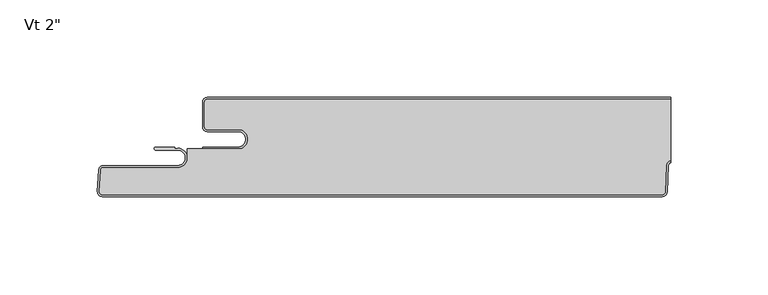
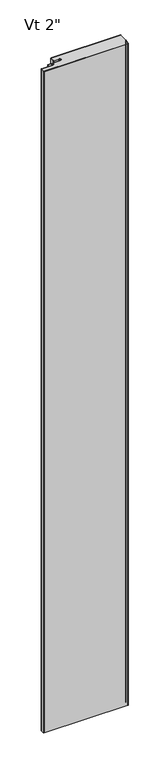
"""IFC4 building model written with IfcOpenShell, lengths in millimetres: plate geometry."""

from ifc_helpers import new_model, si_unit, point, frame_2d, origin, origin_with_axes, place, context, project, spatial, polyline, circle_curve, trimmed, segment, composite_curve, outline, extrude, source, transform, mapped, element, save


def plate_6d69c0c8(model_context):
    return source(origin(), model_context, "Body", "SweptSolid", [
        extrude(outline(composite_curve([segment(polyline([(-117.2187498, -1.0), (120.4062498, -1.0), (120.4062498, -32.391556)]), True, "CONTINUOUS"), segment(trimmed(circle_curve(frame_2d((120.9323848, -34.925)), 2.5875), [point((120.4062498, -32.391556))], [point((118.3484309, -34.7895807))], True, "CARTESIAN"), True, "CONTINUOUS"), segment(polyline([(118.3484309, -34.7895807), (117.6303679, -48.491039)]), True, "CONTINUOUS"), segment(trimmed(circle_curve(frame_2d((116.2510108, -48.41875)), 1.38125), [point((117.6303679, -48.491039))], [point((116.2510108, -49.8))], False, "CARTESIAN"), True, "CONTINUOUS"), segment(polyline([(116.2510108, -49.8), (-171.0656859, -49.8)]), True, "CONTINUOUS"), segment(trimmed(circle_curve(frame_2d((-171.0656859, -48.41875)), 1.38125), [point((-171.0656859, -49.8))], [point((-172.445043, -48.346461))], False, "CARTESIAN"), True, "CONTINUOUS"), segment(polyline([(-172.445043, -48.346461), (-171.8626615, -37.233961)]), True, "CONTINUOUS"), segment(trimmed(circle_curve(frame_2d((-170.4833045, -37.30625)), 1.38125), [point((-171.8626615, -37.233961))], [point((-170.4833045, -35.925))], False, "CARTESIAN"), True, "CONTINUOUS"), segment(polyline([(-170.4833045, -35.925), (-132.2999998, -35.925)]), True, "CONTINUOUS"), segment(trimmed(circle_curve(frame_2d((-132.2999998, -30.95625)), 4.96875), [point((-132.2999998, -35.925))], [point((-127.3312498, -30.95625))], True, "CARTESIAN"), True, "CONTINUOUS"), segment(polyline([(-127.3312498, -30.95625), (-127.3312498, -26.4), (-101.3437498, -26.4)]), True, "CONTINUOUS"), segment(trimmed(circle_curve(frame_2d((-101.3437498, -21.43125)), 4.96875), [point((-101.3437498, -26.4))], [point((-101.3437498, -16.4625))], True, "CARTESIAN"), True, "CONTINUOUS"), segment(polyline([(-101.3437498, -16.4625), (-117.2187498, -16.4625)]), True, "CONTINUOUS"), segment(trimmed(circle_curve(frame_2d((-117.2187498, -15.08125)), 1.38125), [point((-117.2187498, -16.4625))], [point((-118.5999998, -15.08125))], False, "CARTESIAN"), True, "CONTINUOUS"), segment(polyline([(-118.5999998, -15.08125), (-118.5999998, -2.38125)]), True, "CONTINUOUS"), segment(trimmed(circle_curve(frame_2d((-117.2187498, -2.38125)), 1.38125), [point((-118.5999998, -2.38125))], [point((-117.2187498, -1.0))], False, "CARTESIAN"), True, "CONTINUOUS")], self_intersect=False)), origin_with_axes(), (0.0, 0.0, 1.0), 2400.0),
        extrude(outline(composite_curve([segment(polyline([(-119.5999998, -25.4), (-101.3437498, -25.4)]), True, "CONTINUOUS"), segment(trimmed(circle_curve(frame_2d((-101.3437498, -21.43125)), 3.96875), [point((-101.3437498, -25.4))], [point((-101.3437498, -17.4625))], True, "CARTESIAN"), True, "CONTINUOUS"), segment(polyline([(-101.3437498, -17.4625), (-117.2187498, -17.4625)]), True, "CONTINUOUS"), segment(trimmed(circle_curve(frame_2d((-117.2187498, -15.08125)), 2.38125), [point((-117.2187498, -17.4625))], [point((-119.5999998, -15.08125))], False, "CARTESIAN"), True, "CONTINUOUS"), segment(polyline([(-119.5999998, -15.08125), (-119.5999998, -2.38125)]), True, "CONTINUOUS"), segment(trimmed(circle_curve(frame_2d((-117.2187498, -2.38125)), 2.38125), [point((-119.5999998, -2.38125))], [point((-117.2187498, 0.0))], False, "CARTESIAN"), True, "CONTINUOUS"), segment(polyline([(-117.2187498, 0.0), (120.4062498, 0.0), (120.4062498, -1.0), (-117.2187498, -1.0)]), True, "CONTINUOUS"), segment(trimmed(circle_curve(frame_2d((-117.2187498, -2.38125)), 1.38125), [point((-117.2187498, -1.0))], [point((-118.5999998, -2.38125))], True, "CARTESIAN"), True, "CONTINUOUS"), segment(polyline([(-118.5999998, -2.38125), (-118.5999998, -15.08125)]), True, "CONTINUOUS"), segment(trimmed(circle_curve(frame_2d((-117.2187498, -15.08125)), 1.38125), [point((-118.5999998, -15.08125))], [point((-117.2187498, -16.4625))], True, "CARTESIAN"), True, "CONTINUOUS"), segment(polyline([(-117.2187498, -16.4625), (-101.3437498, -16.4625)]), True, "CONTINUOUS"), segment(trimmed(circle_curve(frame_2d((-101.3437498, -21.43125)), 4.96875), [point((-101.3437498, -16.4625))], [point((-101.3437498, -26.4))], False, "CARTESIAN"), True, "CONTINUOUS"), segment(polyline([(-101.3437498, -26.4), (-119.5999998, -26.4), (-119.5999998, -25.4)]), True, "CONTINUOUS")], self_intersect=False)), origin_with_axes(), (0.0, 0.0, 1.0), 2400.0),
        extrude(outline(composite_curve([segment(polyline([(-143.6252048, -25.4), (-133.9017673, -25.4), (-133.9017673, -26.19375), (-132.3142673, -25.9875)]), True, "CONTINUOUS"), segment(trimmed(circle_curve(frame_2d((-132.3142673, -30.95625)), 4.96875), [point((-132.3142673, -25.9875))], [point((-132.3142673, -35.925))], False, "CARTESIAN"), True, "CONTINUOUS"), segment(polyline([(-132.3142673, -35.925), (-170.4975719, -35.925)]), True, "CONTINUOUS"), segment(trimmed(circle_curve(frame_2d((-170.4975719, -37.30625)), 1.38125), [point((-170.4975719, -35.925))], [point((-171.876929, -37.233961))], True, "CARTESIAN"), True, "CONTINUOUS"), segment(polyline([(-171.876929, -37.233961), (-172.4593104, -48.346461)]), True, "CONTINUOUS"), segment(trimmed(circle_curve(frame_2d((-171.0799534, -48.41875)), 1.38125), [point((-172.4593104, -48.346461))], [point((-171.0799534, -49.8))], True, "CARTESIAN"), True, "CONTINUOUS"), segment(polyline([(-171.0799534, -49.8), (116.2510108, -49.8)]), True, "CONTINUOUS"), segment(trimmed(circle_curve(frame_2d((116.2510108, -48.41875)), 1.38125), [point((116.2510108, -49.8))], [point((117.6303679, -48.491039))], True, "CARTESIAN"), True, "CONTINUOUS"), segment(polyline([(117.6303679, -48.491039), (118.3484309, -34.7895807)]), True, "CONTINUOUS"), segment(trimmed(circle_curve(frame_2d((120.9323848, -34.925)), 2.5875), [point((118.3484309, -34.7895807))], [point((120.4062498, -32.391556))], False, "CARTESIAN"), True, "CONTINUOUS"), segment(polyline([(120.4062498, -32.391556), (120.4062498, -33.4272222)]), True, "CONTINUOUS"), segment(trimmed(circle_curve(frame_2d((120.9323848, -34.925)), 1.5875), [point((120.4062498, -33.4272222))], [point((119.3470604, -34.8419167))], True, "CARTESIAN"), True, "CONTINUOUS"), segment(polyline([(119.3470604, -34.8419167), (118.6289974, -48.543375)]), True, "CONTINUOUS"), segment(trimmed(circle_curve(frame_2d((116.2510108, -48.41875)), 2.38125), [point((118.6289974, -48.543375))], [point((116.2510108, -50.8))], False, "CARTESIAN"), True, "CONTINUOUS"), segment(polyline([(116.2510108, -50.8), (-171.0799534, -50.8)]), True, "CONTINUOUS"), segment(trimmed(circle_curve(frame_2d((-171.0799534, -48.41875)), 2.38125), [point((-171.0799534, -50.8))], [point((-173.4579399, -48.294125))], False, "CARTESIAN"), True, "CONTINUOUS"), segment(polyline([(-173.4579399, -48.294125), (-172.8755585, -37.181625)]), True, "CONTINUOUS"), segment(trimmed(circle_curve(frame_2d((-170.4975719, -37.30625)), 2.38125), [point((-172.8755585, -37.181625))], [point((-170.4975719, -34.925))], False, "CARTESIAN"), True, "CONTINUOUS"), segment(polyline([(-170.4975719, -34.925), (-132.3142673, -34.925)]), True, "CONTINUOUS"), segment(trimmed(circle_curve(frame_2d((-132.3142673, -30.95625)), 3.96875), [point((-132.3142673, -34.925))], [point((-132.3142673, -26.9875))], True, "CARTESIAN"), True, "CONTINUOUS"), segment(polyline([(-132.3142673, -26.9875), (-143.6252048, -26.9875)]), True, "CONTINUOUS"), segment(trimmed(circle_curve(frame_2d((-143.6252048, -26.19375)), 0.79375), [point((-143.6252048, -26.9875))], [point((-143.6252048, -25.4))], False, "CARTESIAN"), True, "CONTINUOUS")], self_intersect=False)), origin_with_axes(), (0.0, 0.0, 1.0), 2400.0),
    ])


if __name__ == "__main__":
    model = new_model("IFC4")
    model_context = context("Model", 3, world=origin())
    ifc_project = project(units=[si_unit("LENGTHUNIT", "METRE", prefix="MILLI")], contexts=[model_context])
    site = spatial("IfcSite", under=ifc_project)
    building = spatial("IfcBuilding", under=site)
    placement = place(None, origin())
    plate_shape = plate_6d69c0c8(model_context)
    element("IfcPlate", 1, ObjectType="KIP-12-DWHR-R19-CP-Vt-F : Vt 2\"", at=placement, inside=building, context=model_context, shape_type="MappedRepresentation", body=[
        mapped(plate_shape, transform((0.0, 0.0, 0.0), x_axis=(1.0, 0.0, 0.0), y_axis=(0.0, 1.0, 0.0), z_axis=(0.0, 0.0, 1.0))),
    ])
    save(model, "model.ifc")
